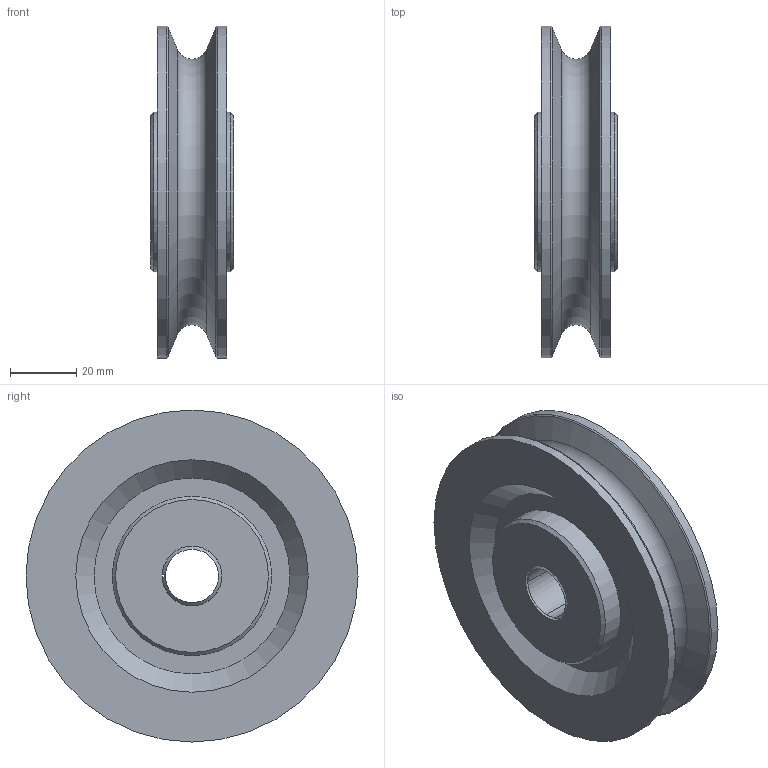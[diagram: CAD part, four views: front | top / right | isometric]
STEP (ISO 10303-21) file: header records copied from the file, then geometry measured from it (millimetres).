
FILE_DESCRIPTION(/* description */ ('Seilrolle ø100 Buchse komplett'),/* implementation_level */ '2;1');
FILE_NAME(/* name */ 'Z:\Workspace\03 Seilrollen\1.401 Seilrollen Gleitlager\1.401.03 Seilrolle ø 100 Buchse\1.401.03 Seilrolle ø100 Buchse komplett.stp',/* time_stamp */ '2021-10-04T10:07:01+02:00',/* author */ ('cad-user'),/* organization */ (''),/* preprocessor_version */ 'ST-DEVELOPER v18',/* originating_system */ 'Autodesk Inventor 2020',/* authorisation */ '');
FILE_SCHEMA (('AUTOMOTIVE_DESIGN { 1 0 10303 214 3 1 1 }'));
Length unit declared in the file: millimetre
Products named in the file (3): 1.401.03 Seilrolle ø100 Buchse komplett; 1.401.03 Seilrolle ø100 Buchse ; Lagerbuchse 1625-DU
Assembly tree (2 placements, depth 2):
  1.401.03 Seilrolle ø100 Buchse komplett
    1.401.03 Seilrolle ø100 Buchse 
    Lagerbuchse 1625-DU
Bounding box: 25 x 100 x 100 mm (x, y, z)
Volume: 121441.1 mm3; surface area: 31648.4 mm2
Topology: 2 solids, 2 shells, 29 faces, 77 edges, 54 vertices
Faces by surface type: cone 10, cylinder 8, plane 8, torus 3
Full cylindrical faces by diameter (mm): 18 x1, 48 x2, 100 x2
Entity records: 1068 total; most frequent: DIRECTION 196, CARTESIAN_POINT 173, ORIENTED_EDGE 154, AXIS2_PLACEMENT_3D 89, EDGE_CURVE 77, CIRCLE 55, VERTEX_POINT 54, EDGE_LOOP 35
